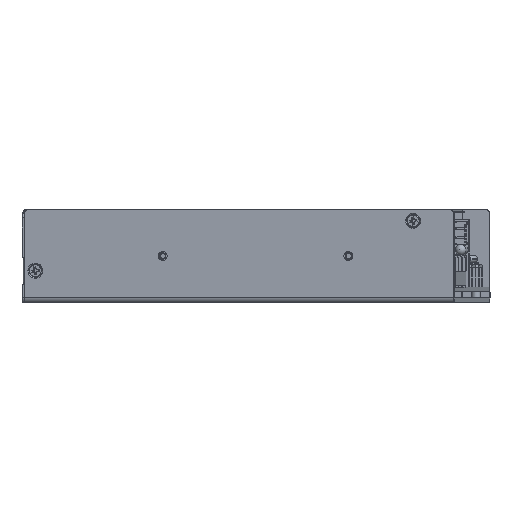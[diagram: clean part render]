
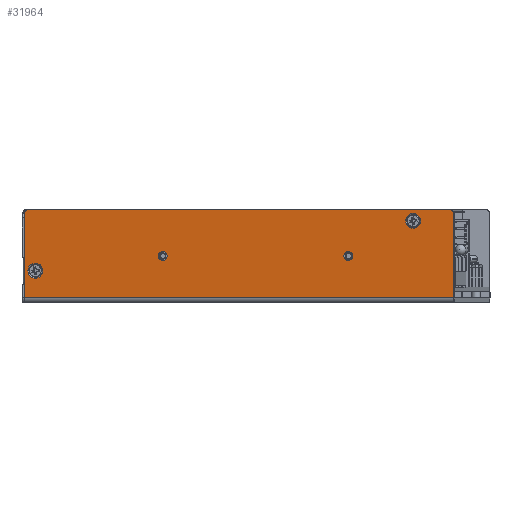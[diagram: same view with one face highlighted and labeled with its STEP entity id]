
A CAD part, front view. The second image highlights one B-rep face of the part: STEP entity #31964.
In plain terms, the highlighted planar face has unit normal (-0.158, -0.987, 0) as drawn and (0, -1, 0) by its records, which use the part's own axes.
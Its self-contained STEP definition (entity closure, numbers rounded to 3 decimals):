
#2496=LINE($,#44685,#5499);
#2497=LINE($,#44687,#5500);
#2498=LINE($,#44689,#5501);
#2499=LINE($,#44692,#5502);
#5499=VECTOR($,#36488,36.8);
#5500=VECTOR($,#36489,192.);
#5501=VECTOR($,#36490,36.8);
#5502=VECTOR($,#36493,188.);
#8499=PLANE($,#33861);
#9550=FACE_BOUND($,#11787,.T.);
#9551=FACE_BOUND($,#11788,.T.);
#9552=FACE_BOUND($,#11789,.T.);
#9553=FACE_BOUND($,#11790,.T.);
#9554=FACE_BOUND($,#11791,.T.);
#11787=EDGE_LOOP($,(#22662));
#11788=EDGE_LOOP($,(#22663,#22664,#22665,#22666,#22667,#22668));
#11789=EDGE_LOOP($,(#22669));
#11790=EDGE_LOOP($,(#22670));
#11791=EDGE_LOOP($,(#22671));
#14015=CIRCLE($,#33860,3.3);
#14016=CIRCLE($,#33862,3.3);
#14017=CIRCLE($,#33863,2.);
#14018=CIRCLE($,#33864,2.);
#14019=CIRCLE($,#33865,2.);
#14020=CIRCLE($,#33866,2.);
#14951=VERTEX_POINT($,#44676);
#14952=VERTEX_POINT($,#44679);
#14953=VERTEX_POINT($,#44681);
#14954=VERTEX_POINT($,#44682);
#14955=VERTEX_POINT($,#44684);
#14956=VERTEX_POINT($,#44686);
#14957=VERTEX_POINT($,#44688);
#14958=VERTEX_POINT($,#44690);
#14959=VERTEX_POINT($,#44693);
#14960=VERTEX_POINT($,#44695);
#18019=EDGE_CURVE($,#14951,#14951,#14015,.T.);
#18020=EDGE_CURVE($,#14952,#14952,#14016,.T.);
#18021=EDGE_CURVE($,#14953,#14954,#14017,.T.);
#18022=EDGE_CURVE($,#14955,#14953,#2496,.T.);
#18023=EDGE_CURVE($,#14955,#14956,#2497,.T.);
#18024=EDGE_CURVE($,#14957,#14956,#2498,.T.);
#18025=EDGE_CURVE($,#14958,#14957,#14018,.T.);
#18026=EDGE_CURVE($,#14954,#14958,#2499,.T.);
#18027=EDGE_CURVE($,#14959,#14959,#14019,.T.);
#18028=EDGE_CURVE($,#14960,#14960,#14020,.T.);
#22662=ORIENTED_EDGE($,*,*,#18020,.F.);
#22663=ORIENTED_EDGE($,*,*,#18021,.F.);
#22664=ORIENTED_EDGE($,*,*,#18022,.F.);
#22665=ORIENTED_EDGE($,*,*,#18023,.T.);
#22666=ORIENTED_EDGE($,*,*,#18024,.F.);
#22667=ORIENTED_EDGE($,*,*,#18025,.F.);
#22668=ORIENTED_EDGE($,*,*,#18026,.F.);
#22669=ORIENTED_EDGE($,*,*,#18027,.T.);
#22670=ORIENTED_EDGE($,*,*,#18028,.T.);
#22671=ORIENTED_EDGE($,*,*,#18019,.F.);
#31964=ADVANCED_FACE($,(#9550,#9551,#9552,#9553,#9554),#8499,.F.);
#33860=AXIS2_PLACEMENT_3D($,#44677,#36480,#36481);
#33861=AXIS2_PLACEMENT_3D($,#44678,#36482,#36483);
#33862=AXIS2_PLACEMENT_3D($,#44680,#36484,#36485);
#33863=AXIS2_PLACEMENT_3D($,#44683,#36486,#36487);
#33864=AXIS2_PLACEMENT_3D($,#44691,#36491,#36492);
#33865=AXIS2_PLACEMENT_3D($,#44694,#36494,#36495);
#33866=AXIS2_PLACEMENT_3D($,#44696,#36496,#36497);
#36480=DIRECTION('center_axis',(0.,-1.,0.));
#36481=DIRECTION('ref_axis',(-1.,0.,0.));
#36482=DIRECTION('center_axis',(0.,1.,0.));
#36483=DIRECTION('ref_axis',(1.,0.,0.));
#36484=DIRECTION('center_axis',(0.,-1.,0.));
#36485=DIRECTION('ref_axis',(-1.,0.,0.));
#36486=DIRECTION('center_axis',(0.,1.,0.));
#36487=DIRECTION('ref_axis',(-0.707,0.,0.707));
#36488=DIRECTION($,(0.,0.,1.));
#36489=DIRECTION($,(1.,0.,0.));
#36490=DIRECTION($,(0.,0.,-1.));
#36491=DIRECTION('center_axis',(0.,1.,0.));
#36492=DIRECTION('ref_axis',(0.707,0.,0.707));
#36493=DIRECTION($,(1.,0.,0.));
#36494=DIRECTION('center_axis',(0.,1.,0.));
#36495=DIRECTION('ref_axis',(-1.,0.,0.));
#36496=DIRECTION('center_axis',(0.,1.,0.));
#36497=DIRECTION('ref_axis',(-1.,0.,0.));
#44676=CARTESIAN_POINT('',(155.3,-3.,36.));
#44677=CARTESIAN_POINT('Origin',(152.,-3.,36.));
#44678=CARTESIAN_POINT('Origin',(74.,-3.,20.752));
#44679=CARTESIAN_POINT('',(-13.7,-3.,14.));
#44680=CARTESIAN_POINT('Origin',(-17.,-3.,14.));
#44681=CARTESIAN_POINT('',(-22.,-3.,39.));
#44682=CARTESIAN_POINT('',(-20.,-3.,41.));
#44683=CARTESIAN_POINT('Origin',(-20.,-3.,39.));
#44684=CARTESIAN_POINT('',(-22.,-3.,2.2));
#44685=CARTESIAN_POINT($,(-22.,-3.,2.2));
#44686=CARTESIAN_POINT('',(170.,-3.,2.2));
#44687=CARTESIAN_POINT($,(74.,-3.,2.2));
#44688=CARTESIAN_POINT('',(170.,-3.,39.));
#44689=CARTESIAN_POINT($,(170.,-3.,-1.193));
#44690=CARTESIAN_POINT('',(168.,-3.,41.));
#44691=CARTESIAN_POINT('Origin',(168.,-3.,39.));
#44692=CARTESIAN_POINT($,(-22.,-3.,41.));
#44693=CARTESIAN_POINT('',(42.,-3.,20.5));
#44694=CARTESIAN_POINT('Origin',(40.,-3.,20.5));
#44695=CARTESIAN_POINT('',(125.,-3.,20.5));
#44696=CARTESIAN_POINT('Origin',(123.,-3.,20.5));
